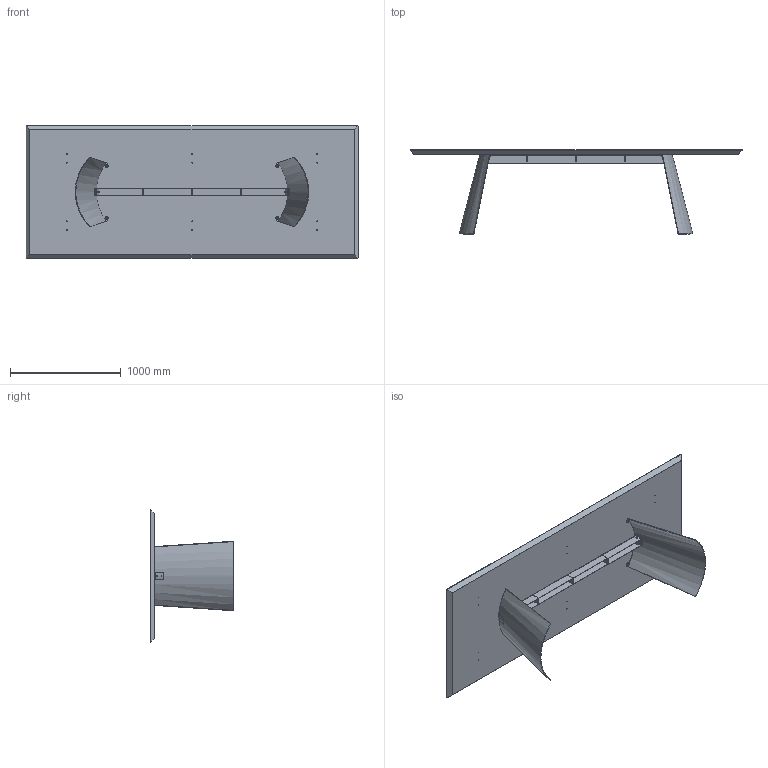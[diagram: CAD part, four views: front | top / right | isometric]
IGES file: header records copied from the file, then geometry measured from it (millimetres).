
Start section: SolidWorks IGES file using analytic representation for surfaces
Global section: file name: Y:\eforma\TECNICO\SOLIDWORKS\E-FORMA\1-TAVOLI\DORIAN\02 parts-rev 01\DN24W.IGS; native system: SolidWorks 2022; preprocessor: SolidWorks 2022; author: eforma.tech; date: 240807.171220; units: millimetre
Bounding box: 3000 x 758 x 1200 mm (x, y, z)
Volume: 137803139.7 mm3; surface area: 10137477.7 mm2
Topology: 43 solids, 43 shells, 738 faces, 1726 edges, 1051 vertices
Faces by surface type: revolution 434, plane 286, bspline 18
